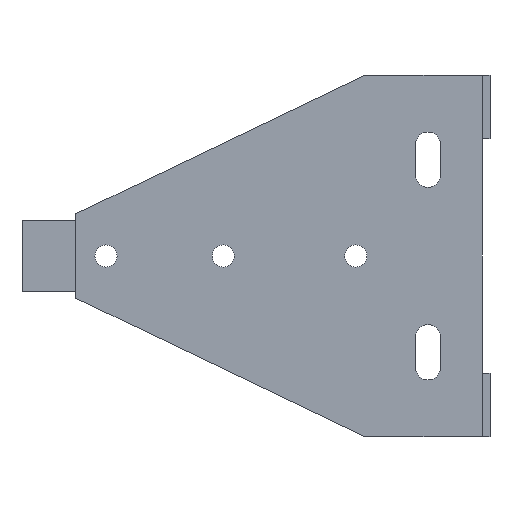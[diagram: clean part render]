
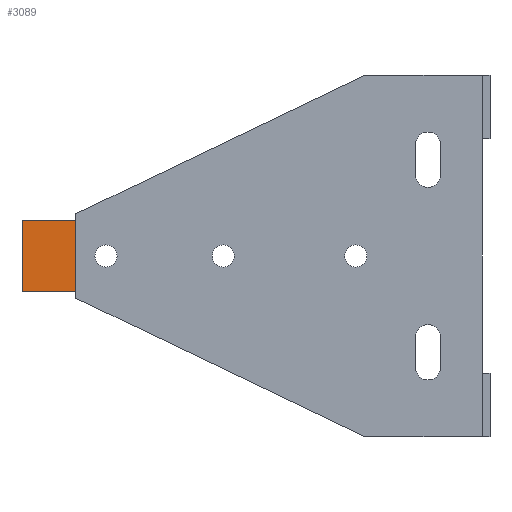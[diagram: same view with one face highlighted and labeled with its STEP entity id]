
A CAD part, left-side view. The second image highlights one B-rep face of the part: STEP entity #3089.
In plain terms, the highlighted planar face has unit normal (-1, 0, 0).
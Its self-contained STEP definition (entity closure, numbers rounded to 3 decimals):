
#1 = ORIENTED_EDGE ( 'NONE', *, *, #592, .T. ) ;
#2 = ORIENTED_EDGE ( 'NONE', *, *, #510, .F. ) ;
#112 = CARTESIAN_POINT ( 'NONE',  ( 1.5, 58.5, -5.9 ) ) ;
#123 = CARTESIAN_POINT ( 'NONE',  ( 1.5, 58.5, 5.9 ) ) ;
#157 = CARTESIAN_POINT ( 'NONE',  ( 1.5, 67.45, 5.9 ) ) ;
#161 = CARTESIAN_POINT ( 'NONE',  ( 1.5, 67.45, -5.9 ) ) ;
#459 = EDGE_CURVE ( 'NONE', #3729, #3725, #1195, .T. ) ;
#510 = EDGE_CURVE ( 'NONE', #3725, #3691, #1261, .T. ) ;
#538 = EDGE_CURVE ( 'NONE', #3729, #3680, #1295, .T. ) ;
#592 = EDGE_CURVE ( 'NONE', #3680, #3691, #1367, .T. ) ;
#606 = AXIS2_PLACEMENT_3D ( 'NONE', #2760, #2766, #2767 ) ;
#889 = EDGE_LOOP ( 'NONE', ( #3550, #1, #2, #4046 ) ) ;
#1190 = VECTOR ( 'NONE', #1986, 1000. ) ;
#1195 = LINE ( 'NONE', #1973, #1190 ) ;
#1261 = LINE ( 'NONE', #2069, #1265 ) ;
#1265 = VECTOR ( 'NONE', #2072, 1000. ) ;
#1295 = LINE ( 'NONE', #2116, #1300 ) ;
#1300 = VECTOR ( 'NONE', #2117, 1000. ) ;
#1367 = LINE ( 'NONE', #2197, #1368 ) ;
#1368 = VECTOR ( 'NONE', #2198, 1000. ) ;
#1973 = CARTESIAN_POINT ( 'NONE',  ( 1.5, 67.45, 5.9 ) ) ;
#1986 = DIRECTION ( 'NONE',  ( 0., 0., 1. ) ) ;
#2069 = CARTESIAN_POINT ( 'NONE',  ( 1.5, 79.252, 5.9 ) ) ;
#2072 = DIRECTION ( 'NONE',  ( 0., -1., 0. ) ) ;
#2116 = CARTESIAN_POINT ( 'NONE',  ( 1.5, 79.252, -5.9 ) ) ;
#2117 = DIRECTION ( 'NONE',  ( 0., -1., 0. ) ) ;
#2197 = CARTESIAN_POINT ( 'NONE',  ( 1.5, 58.5, -7. ) ) ;
#2198 = DIRECTION ( 'NONE',  ( 0., 0., 1. ) ) ;
#2757 = PLANE ( 'NONE',  #606 ) ;
#2760 = CARTESIAN_POINT ( 'NONE',  ( 1.5, 79.252, 5.9 ) ) ;
#2766 = DIRECTION ( 'NONE',  ( 1., 0., 0. ) ) ;
#2767 = DIRECTION ( 'NONE',  ( 0., 0., -1. ) ) ;
#3089 = ADVANCED_FACE ( 'NONE', ( #3486 ), #2757, .F. ) ;
#3486 = FACE_OUTER_BOUND ( 'NONE', #889, .T. ) ;
#3550 = ORIENTED_EDGE ( 'NONE', *, *, #538, .T. ) ;
#3680 = VERTEX_POINT ( 'NONE', #112 ) ;
#3691 = VERTEX_POINT ( 'NONE', #123 ) ;
#3725 = VERTEX_POINT ( 'NONE', #157 ) ;
#3729 = VERTEX_POINT ( 'NONE', #161 ) ;
#4046 = ORIENTED_EDGE ( 'NONE', *, *, #459, .F. ) ;
